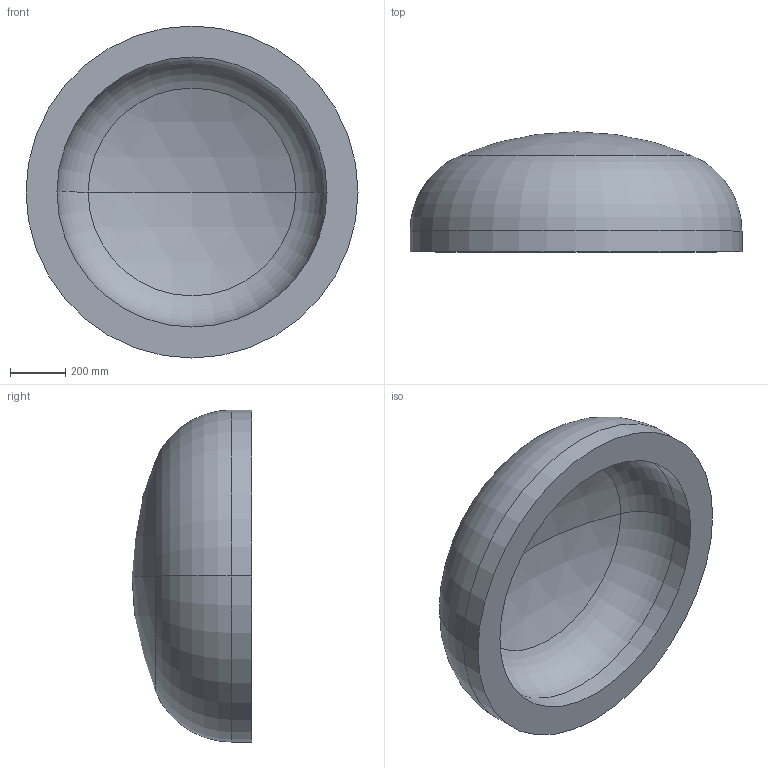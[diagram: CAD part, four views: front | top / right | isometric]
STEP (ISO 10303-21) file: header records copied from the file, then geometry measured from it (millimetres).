
FILE_DESCRIPTION (( 'STEP AP203' ), '1' );
FILE_NAME ('DIN 28013 Korbbogenform_-_Boden DIN 28013 - 1200 x 75 - I - s=112.step', '2016-07-01T09:39:20', ( '' ), ( '' ), 'SwSTEP 2.0', 'SolidWorks 2013', '' );
FILE_SCHEMA (( 'CONFIG_CONTROL_DESIGN' ));
Length unit declared in the file: millimetre
Products named in the file (1): DIN 28013 Korbbogenform_-_Boden DIN 28013 - 1200 x 75 - I - s=112
Bounding box: 1200 x 433.69 x 1200 mm (x, y, z)
Volume: 184963872.8 mm3; surface area: 3712019.7 mm2
Topology: 1 solids, 1 shells, 13 faces, 24 edges, 14 vertices
Faces by surface type: torus 4, cylinder 4, sphere 4, plane 1
Entity records: 407 total; most frequent: DIRECTION 72, CARTESIAN_POINT 52, ORIENTED_EDGE 48, AXIS2_PLACEMENT_3D 34, EDGE_CURVE 24, CIRCLE 20, EDGE_LOOP 14, VERTEX_POINT 14
